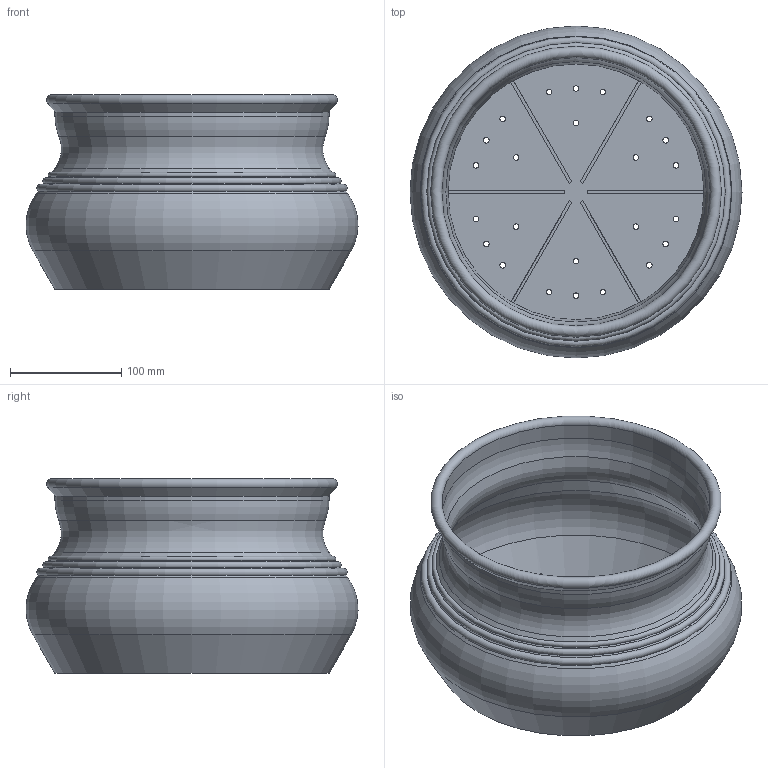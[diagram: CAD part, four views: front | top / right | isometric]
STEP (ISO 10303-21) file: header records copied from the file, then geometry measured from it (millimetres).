
FILE_DESCRIPTION(/* description */ (''),/* implementation_level */ '2;1');
FILE_NAME(/* name */ 'LR2406-S25-H175-D300_step.step',/* time_stamp */ '2024-02-01T10:59:17+01:00',/* author */ (''),/* organization */ (''),/* preprocessor_version */ 'ST-DEVELOPER v20',/* originating_system */ 'Autodesk Translation Framework v12.20.1.177',/* authorisation */ '');
FILE_SCHEMA (('AUTOMOTIVE_DESIGN { 1 0 10303 214 3 1 1 }'));
Length unit declared in the file: millimetre
Products named in the file (1): LR2406-S25-H175-D300
Bounding box: 297.97 x 297.97 x 175 mm (x, y, z)
Volume: 563519.5 mm3; surface area: 424959.6 mm2
Topology: 1 solids, 1 shells, 70 faces, 185 edges, 117 vertices
Faces by surface type: cylinder 32, plane 20, torus 10, cone 8
Full cylindrical faces by diameter (mm): 5 x24, 241 x1, 246 x1
Entity records: 2336 total; most frequent: DIRECTION 430, CARTESIAN_POINT 373, ORIENTED_EDGE 370, EDGE_CURVE 185, AXIS2_PLACEMENT_3D 174, EDGE_LOOP 118, VERTEX_POINT 117, CIRCLE 103
